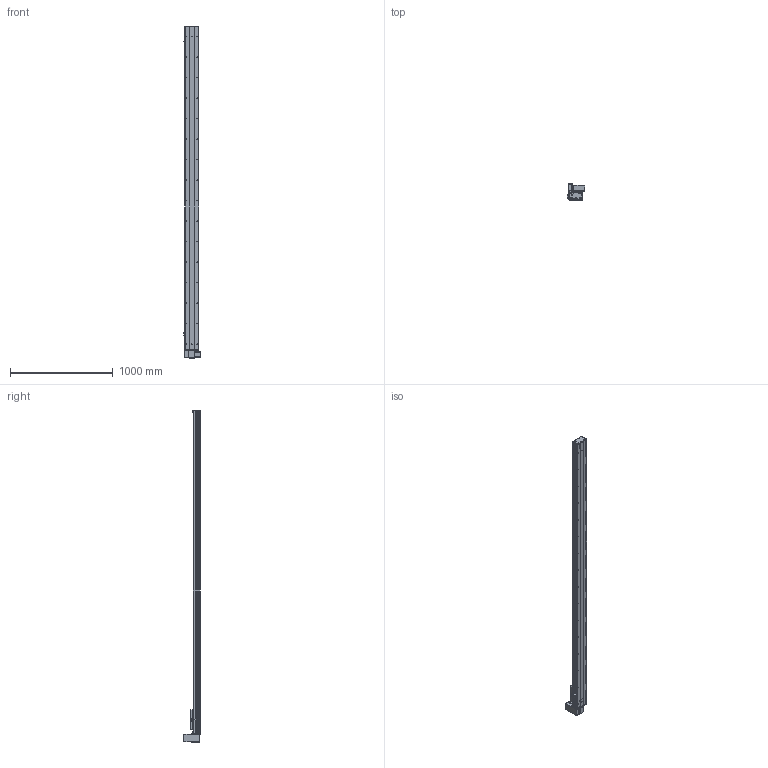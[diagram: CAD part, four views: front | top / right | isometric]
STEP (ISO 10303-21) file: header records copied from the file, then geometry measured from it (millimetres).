
FILE_DESCRIPTION (( 'STEP AP203' ), '1' );
FILE_NAME ('Y135CB-D90-S2850-UR-P400W.STEP', '2020-02-18T06:46:31', ( '微软用户' ), ( '微软中国' ), 'SwSTEP 2.0', 'SolidWorks 2017', '' );
FILE_SCHEMA (( 'CONFIG_CONTROL_DESIGN' ));
Length unit declared in the file: millimetre
Products named in the file (18): 00B-俋欶BM--; C-詩湍揤踡え-陔; Y135CB-耜裔; Y135CB-D90-S2850-UR-P400W; 135CB--詩湍-CE; 135CB---遴掛极.-; Y100-135俋离換覜ん--; 35CB---喘謫眊楊擘啣; Y135C-陔俋离換覜結え-; 0B-埴倛裔啣; 5C--俋欶; 0B-源倛裔啣; C-雄赽釱--; 0B-萇儂楊擘啣; Y10B--々湍喘謫眊--666; san松下电机400不带刹车----; Y10B-耜蚾蟀諉啣----; 5CB --掛极耜裔啣-
Assembly tree (21 placements, depth 2):
  Y135CB-D90-S2850-UR-P400W
    Y135CB-耜裔
    135CB---遴掛极.-
    35CB---喘謫眊楊擘啣
    0B-埴倛裔啣
    0B-源倛裔啣
    0B-萇儂楊擘啣
    san松下电机400不带刹车----
    5CB --掛极耜裔啣-  x2
    C-詩湍揤踡え-陔  x2
    135CB--詩湍-CE
    Y100-135俋离換覜ん--  x3
    Y135C-陔俋离換覜結え-
    5C--俋欶
    C-雄赽釱--
    Y10B--々湍喘謫眊--666
    Y10B-耜蚾蟀諉啣----
    00B-俋欶BM--
Bounding box: 167.5 x 158.7 x 3238 mm (x, y, z)
Volume: 9190795.4 mm3; surface area: 3644860.2 mm2
Topology: 21 solids, 21 shells, 981 faces, 2689 edges, 1782 vertices
Faces by surface type: cylinder 509, plane 456, cone 16
Entity records: 31167 total; most frequent: CARTESIAN_POINT 5208, DIRECTION 5181, ORIENTED_EDGE 4854, EDGE_CURVE 2427, AXIS2_PLACEMENT_3D 1903, VERTEX_POINT 1610, LINE 1375, VECTOR 1375
